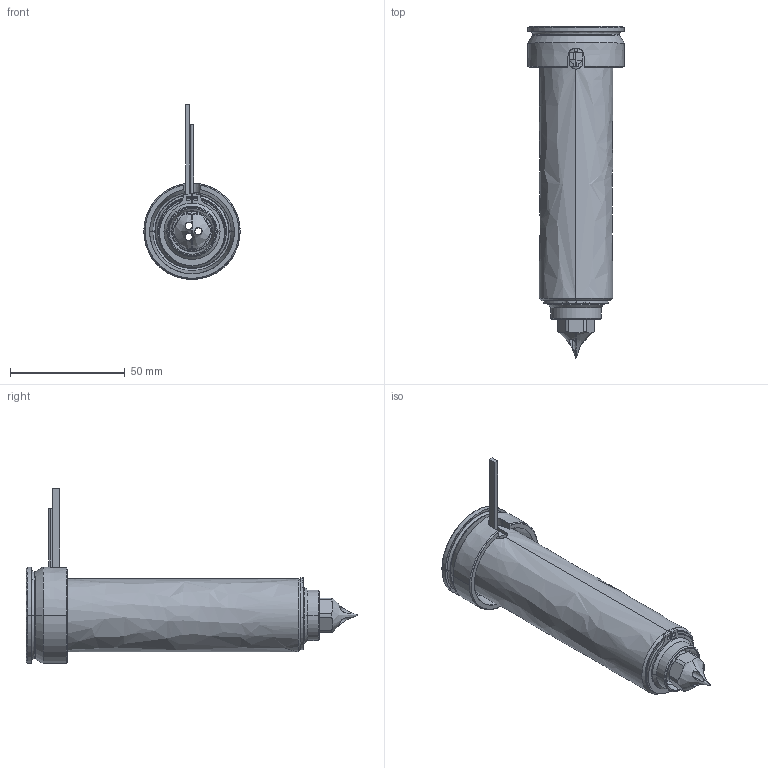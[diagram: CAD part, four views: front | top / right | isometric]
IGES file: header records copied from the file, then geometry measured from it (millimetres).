
Start section: SolidWorks IGES file using analytic representation for surfaces
Global section: file name: C:\Users\luca.EMPAD\Desktop\TEM\UGDL3614-S-A-1 [Øf=0.3 ØC=10].IGS; native system: SolidWorks 2012; preprocessor: SolidWorks 2012; author: luca; date: 120330.160435; units: millimetre
Bounding box: 42 x 144.8 x 76.3 mm (x, y, z)
Surface area: 46461.7 mm2 (no closed solid volume)
Topology: 0 solids, 0 shells, 124 faces, 2180 edges, 2180 vertices
Faces by surface type: revolution 81, bspline 43
